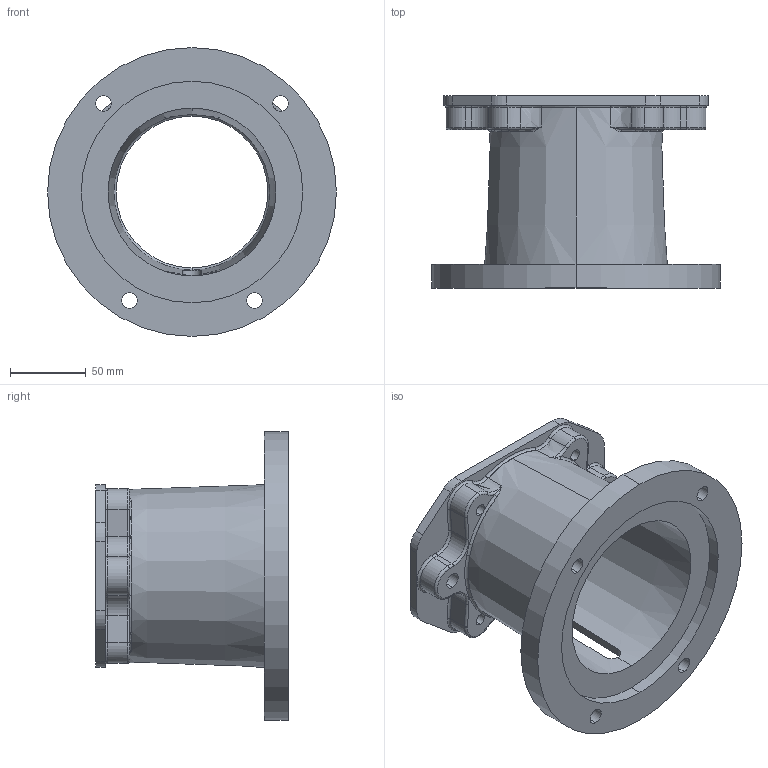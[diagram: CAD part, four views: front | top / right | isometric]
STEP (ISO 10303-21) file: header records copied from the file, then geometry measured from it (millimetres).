
FILE_DESCRIPTION (( 'STEP AP203' ), '1' );
FILE_NAME ('E57550100M.STEP', '2014-11-03T15:50:57', ( '' ), ( '' ), 'SwSTEP 2.0', 'SolidWorks 2014', '' );
FILE_SCHEMA (( 'CONFIG_CONTROL_DESIGN' ));
Length unit declared in the file: inch
Products named in the file (1): E57550100M
Bounding box: 190.5 x 127 x 190.5 mm (x, y, z)
Volume: 540043.9 mm3; surface area: 155659.6 mm2
Topology: 1 solids, 1 shells, 153 faces, 402 edges, 244 vertices
Faces by surface type: cylinder 64, torus 44, plane 25, bspline 16, cone 4
Entity records: 5983 total; most frequent: CARTESIAN_POINT 2080, DIRECTION 858, ORIENTED_EDGE 796, EDGE_CURVE 398, AXIS2_PLACEMENT_3D 370, VERTEX_POINT 244, CIRCLE 232, EDGE_LOOP 174
